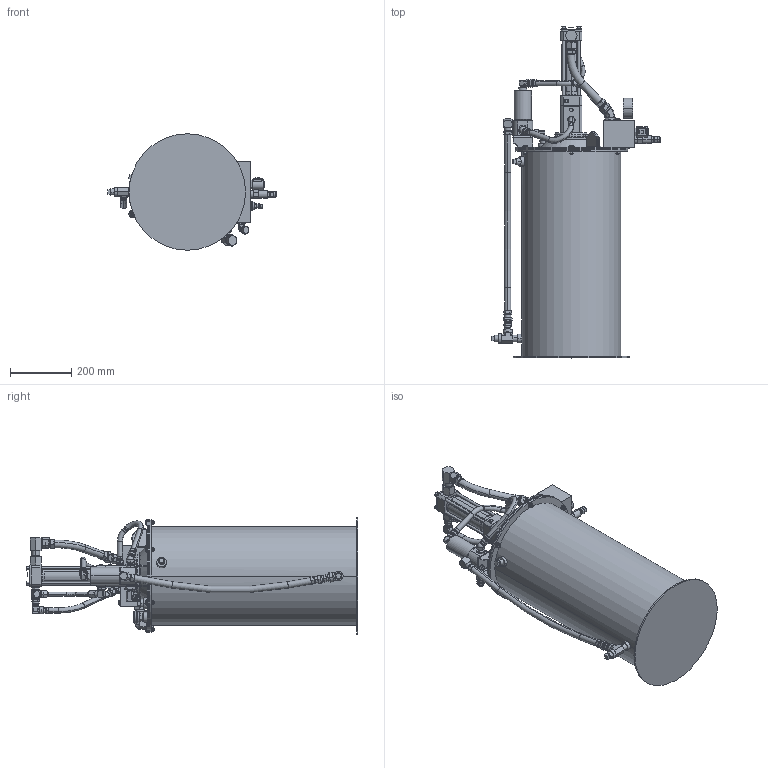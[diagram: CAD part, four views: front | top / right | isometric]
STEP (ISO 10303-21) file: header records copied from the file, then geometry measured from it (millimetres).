
FILE_DESCRIPTION((''),'2;1');
FILE_NAME('243159-EN-S_PRT','2022-02-14T11:28:34',('qtmwp1'),(''),'CREO PARAMETRIC BY PTC INC, 2021072','CREO PARAMETRIC BY PTC INC, 2021072','');
FILE_SCHEMA(('CONFIG_CONTROL_DESIGN'));
Products named in the file (1): 243159-EN-S_PRT
Bounding box: 551.58 x 1086.59 x 381 mm (x, y, z)
Surface area: 1860589.9 mm2 (no closed solid volume)
Topology: 0 solids, 246 shells, 1666 faces, 4981 edges, 3465 vertices
Faces by surface type: cone 645, plane 635, cylinder 320, torus 49, bspline 14, sphere 3
Entity records: 63669 total; most frequent: CARTESIAN_POINT 22626, DIRECTION 7990, ORIENTED_EDGE 7958, EDGE_CURVE 4976, VERTEX_POINT 3465, AXIS2_PLACEMENT_3D 3145, B_SPLINE_CURVE_WITH_KNOTS 1783, VECTOR 1700
